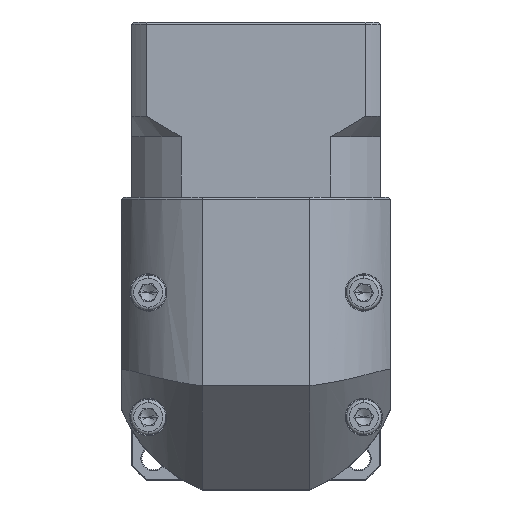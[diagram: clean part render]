
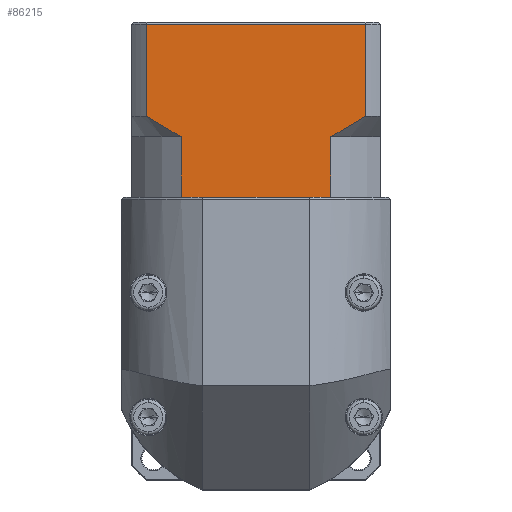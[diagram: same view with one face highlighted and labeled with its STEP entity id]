
A CAD part, top view. The second image highlights one B-rep face of the part: STEP entity #86215.
In plain terms, the highlighted planar face has unit normal (0, 0, 1).
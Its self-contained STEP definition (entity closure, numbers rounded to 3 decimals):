
#407 = AXIS2_PLACEMENT_3D ( 'NONE', #94351, #87023, #3708 ) ;
#1371 = ORIENTED_EDGE ( 'NONE', *, *, #100688, .T. ) ;
#2656 = CARTESIAN_POINT ( 'NONE',  ( -92.343, 107.838, 62.797 ) ) ;
#3708 = DIRECTION ( 'NONE',  ( 0., 1., 0. ) ) ;
#4096 = LINE ( 'NONE', #10339, #27599 ) ;
#4158 = LINE ( 'NONE', #46180, #48540 ) ;
#4741 = VECTOR ( 'NONE', #60488, 1000. ) ;
#8322 = CARTESIAN_POINT ( 'NONE',  ( -44.316, 80.638, 62.797 ) ) ;
#10339 = CARTESIAN_POINT ( 'NONE',  ( -35.886, 80.638, 62.797 ) ) ;
#12083 = VECTOR ( 'NONE', #34782, 1000. ) ;
#12865 = EDGE_CURVE ( 'NONE', #16161, #62507, #75595, .T. ) ;
#15775 = CARTESIAN_POINT ( 'NONE',  ( -88.801, 85.638, 62.797 ) ) ;
#15938 = FACE_OUTER_BOUND ( 'NONE', #91026, .T. ) ;
#16161 = VERTEX_POINT ( 'NONE', #88061 ) ;
#16803 = VECTOR ( 'NONE', #69050, 1000. ) ;
#20139 = VERTEX_POINT ( 'NONE', #86218 ) ;
#20174 = VERTEX_POINT ( 'NONE', #43038 ) ;
#23134 = CARTESIAN_POINT ( 'NONE',  ( -83.255, 82.189, 62.797 ) ) ;
#25220 = CARTESIAN_POINT ( 'NONE',  ( -80.371, 80.638, 62.797 ) ) ;
#25695 = CARTESIAN_POINT ( 'NONE',  ( -88.801, 107.838, 62.797 ) ) ;
#25983 = ORIENTED_EDGE ( 'NONE', *, *, #87573, .T. ) ;
#26825 = CARTESIAN_POINT ( 'NONE',  ( -41.434, 82.188, 62.797 ) ) ;
#27599 = VECTOR ( 'NONE', #28654, 1000. ) ;
#28654 = DIRECTION ( 'NONE',  ( 0., -1., 0. ) ) ;
#30658 = B_SPLINE_CURVE_WITH_KNOTS ( 'NONE', 3,
 ( #60036, #61130, #26825, #43532, #68078, #34789 ),
 .UNSPECIFIED., .F., .F.,
 ( 4, 2, 4 ),
 ( 0.1, 0.104, 0.109 ),
 .UNSPECIFIED. ) ;
#31220 = LINE ( 'NONE', #60079, #71785 ) ;
#33668 = VERTEX_POINT ( 'NONE', #74085 ) ;
#34113 = DIRECTION ( 'NONE',  ( 0., -1., 0. ) ) ;
#34782 = DIRECTION ( 'NONE',  ( -1., 0., 0. ) ) ;
#34789 = CARTESIAN_POINT ( 'NONE',  ( -35.886, 85.638, 62.797 ) ) ;
#37602 = CARTESIAN_POINT ( 'NONE',  ( -35.886, 85.638, 62.797 ) ) ;
#37772 = VECTOR ( 'NONE', #98697, 1000. ) ;
#38992 = DIRECTION ( 'NONE',  ( 1., 0., 0. ) ) ;
#43038 = CARTESIAN_POINT ( 'NONE',  ( -35.886, 107.838, 62.797 ) ) ;
#43532 = CARTESIAN_POINT ( 'NONE',  ( -38.628, 83.862, 62.797 ) ) ;
#43866 = EDGE_CURVE ( 'NONE', #95100, #61844, #55671, .T. ) ;
#46084 = LINE ( 'NONE', #57305, #101093 ) ;
#46180 = CARTESIAN_POINT ( 'NONE',  ( -88.801, 80.638, 62.797 ) ) ;
#47143 = EDGE_CURVE ( 'NONE', #64135, #77962, #30658, .T. ) ;
#48006 = ORIENTED_EDGE ( 'NONE', *, *, #12865, .T. ) ;
#48540 = VECTOR ( 'NONE', #70731, 1000. ) ;
#52169 = CARTESIAN_POINT ( 'NONE',  ( -92.343, 66.138, 62.797 ) ) ;
#54868 = ORIENTED_EDGE ( 'NONE', *, *, #58877, .F. ) ;
#55671 = LINE ( 'NONE', #86064, #4741 ) ;
#57305 = CARTESIAN_POINT ( 'NONE',  ( -92.343, 66.138, 62.797 ) ) ;
#57717 = CARTESIAN_POINT ( 'NONE',  ( -80.371, 80.638, 62.797 ) ) ;
#58714 = ORIENTED_EDGE ( 'NONE', *, *, #77304, .T. ) ;
#58877 = EDGE_CURVE ( 'NONE', #64135, #33668, #31220, .T. ) ;
#60036 = CARTESIAN_POINT ( 'NONE',  ( -44.316, 80.638, 62.797 ) ) ;
#60079 = CARTESIAN_POINT ( 'NONE',  ( -44.316, 80.638, 62.797 ) ) ;
#60488 = DIRECTION ( 'NONE',  ( 1., 0., 0. ) ) ;
#61130 = CARTESIAN_POINT ( 'NONE',  ( -42.859, 81.388, 62.797 ) ) ;
#61844 = VERTEX_POINT ( 'NONE', #87140 ) ;
#62507 = VERTEX_POINT ( 'NONE', #25220 ) ;
#64135 = VERTEX_POINT ( 'NONE', #8322 ) ;
#68078 = CARTESIAN_POINT ( 'NONE',  ( -37.249, 84.736, 62.797 ) ) ;
#68117 = ORIENTED_EDGE ( 'NONE', *, *, #68761, .F. ) ;
#68761 = EDGE_CURVE ( 'NONE', #95100, #62507, #75801, .T. ) ;
#69050 = DIRECTION ( 'NONE',  ( 1., 0., 0. ) ) ;
#69845 = PLANE ( 'NONE',  #407 ) ;
#70731 = DIRECTION ( 'NONE',  ( 0., 1., 0. ) ) ;
#71785 = VECTOR ( 'NONE', #34113, 1000. ) ;
#72329 = LINE ( 'NONE', #2656, #12083 ) ;
#73896 = CARTESIAN_POINT ( 'NONE',  ( -87.441, 84.738, 62.797 ) ) ;
#73943 = EDGE_CURVE ( 'NONE', #16161, #92579, #4158, .T. ) ;
#74085 = CARTESIAN_POINT ( 'NONE',  ( -44.316, 66.138, 62.797 ) ) ;
#75595 = B_SPLINE_CURVE_WITH_KNOTS ( 'NONE', 3,
 ( #15775, #73896, #106187, #23134, #81633, #81986 ),
 .UNSPECIFIED., .F., .F.,
 ( 4, 2, 4 ),
 ( 0.052, 0.057, 0.062 ),
 .UNSPECIFIED. ) ;
#75801 = LINE ( 'NONE', #57717, #37772 ) ;
#77304 = EDGE_CURVE ( 'NONE', #20139, #33668, #46084, .T. ) ;
#77962 = VERTEX_POINT ( 'NONE', #37602 ) ;
#81633 = CARTESIAN_POINT ( 'NONE',  ( -81.823, 81.386, 62.797 ) ) ;
#81986 = CARTESIAN_POINT ( 'NONE',  ( -80.371, 80.638, 62.797 ) ) ;
#85340 = ORIENTED_EDGE ( 'NONE', *, *, #47143, .T. ) ;
#86064 = CARTESIAN_POINT ( 'NONE',  ( -92.343, 66.138, 62.797 ) ) ;
#86151 = LINE ( 'NONE', #52169, #16803 ) ;
#86215 = ADVANCED_FACE ( 'NONE', ( #15938 ), #69845, .F. ) ;
#86218 = CARTESIAN_POINT ( 'NONE',  ( -45.307, 66.138, 62.797 ) ) ;
#87023 = DIRECTION ( 'NONE',  ( 0., 0., -1. ) ) ;
#87140 = CARTESIAN_POINT ( 'NONE',  ( -79.38, 66.138, 62.797 ) ) ;
#87573 = EDGE_CURVE ( 'NONE', #61844, #20139, #86151, .T. ) ;
#88061 = CARTESIAN_POINT ( 'NONE',  ( -88.801, 85.638, 62.797 ) ) ;
#91026 = EDGE_LOOP ( 'NONE', ( #93095, #1371, #107332, #48006, #68117, #97008, #25983, #58714, #54868, #85340 ) ) ;
#92579 = VERTEX_POINT ( 'NONE', #25695 ) ;
#93095 = ORIENTED_EDGE ( 'NONE', *, *, #105186, .F. ) ;
#94351 = CARTESIAN_POINT ( 'NONE',  ( -92.343, 108.338, 62.797 ) ) ;
#95100 = VERTEX_POINT ( 'NONE', #97296 ) ;
#97008 = ORIENTED_EDGE ( 'NONE', *, *, #43866, .T. ) ;
#97296 = CARTESIAN_POINT ( 'NONE',  ( -80.371, 66.138, 62.797 ) ) ;
#98697 = DIRECTION ( 'NONE',  ( 0., 1., 0. ) ) ;
#100688 = EDGE_CURVE ( 'NONE', #20174, #92579, #72329, .T. ) ;
#101093 = VECTOR ( 'NONE', #38992, 1000. ) ;
#105186 = EDGE_CURVE ( 'NONE', #20174, #77962, #4096, .T. ) ;
#106187 = CARTESIAN_POINT ( 'NONE',  ( -86.062, 83.865, 62.797 ) ) ;
#107332 = ORIENTED_EDGE ( 'NONE', *, *, #73943, .F. ) ;
